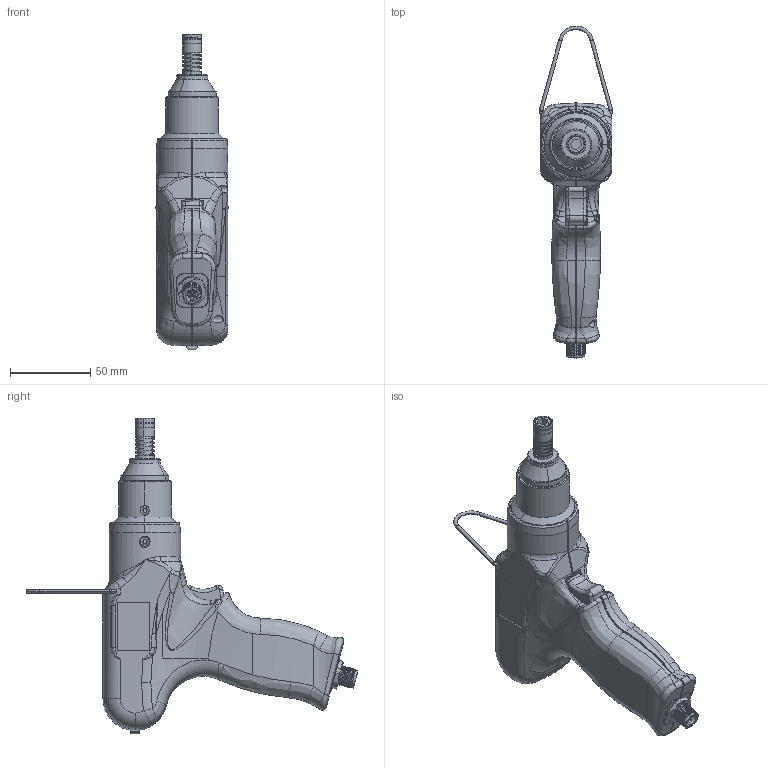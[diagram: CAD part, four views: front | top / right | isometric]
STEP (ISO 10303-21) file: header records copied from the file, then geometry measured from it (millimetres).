
FILE_DESCRIPTION (( 'STEP AP214' ), '1' );
FILE_NAME ('Mito 15P.STEP', '2015-06-10T06:18:44', ( '' ), ( '' ), 'SwSTEP 2.0', 'SolidWorks 2014', '' );
FILE_SCHEMA (( 'AUTOMOTIVE_DESIGN' ));
Length unit declared in the file: metre
Products named in the file (1): Mito 15P
Bounding box: 45.94 x 207.02 x 196.86 mm (x, y, z)
Volume: 108115.4 mm3; surface area: 104941.1 mm2
Topology: 29 solids, 29 shells, 2728 faces, 7016 edges, 4379 vertices
Faces by surface type: cylinder 898, plane 678, cone 561, bspline 529, torus 58, sphere 4
Entity records: 179304 total; most frequent: CARTESIAN_POINT 88626, ORIENTED_EDGE 13976, DIRECTION 10748, EDGE_CURVE 6988, VERTEX_POINT 4373, AXIS2_PLACEMENT_3D 4152, EDGE_LOOP 2825, UNCERTAINTY_MEASURE_WITH_UNIT 2759
